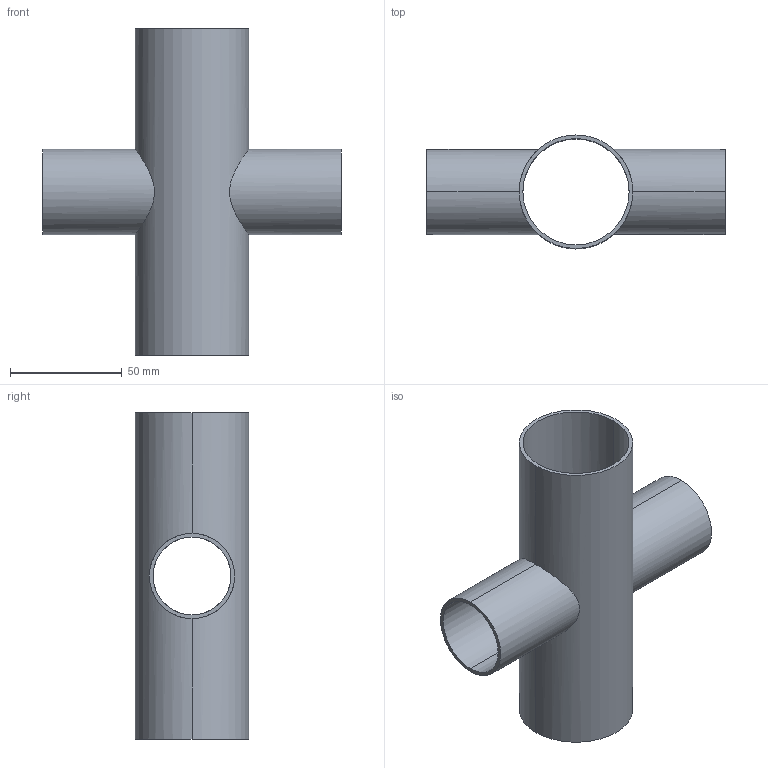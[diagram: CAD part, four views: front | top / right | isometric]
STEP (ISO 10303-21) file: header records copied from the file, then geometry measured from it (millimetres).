
FILE_DESCRIPTION (( 'STEP AP214' ), '1' );
FILE_NAME ('TE9RWWWW6L2.0x1.5-...STEP', '2016-05-22T04:17:09', ( 'eran' ), ( '' ), 'SwSTEP 2.0', 'SolidWorks 2016', '' );
FILE_SCHEMA (( 'AUTOMOTIVE_DESIGN' ));
Length unit declared in the file: millimetre
Products named in the file (1): TE9RWWWW6L2.0x1.5-..
Bounding box: 133.35 x 50.8 x 146.05 mm (x, y, z)
Volume: 50845.9 mm3; surface area: 62466.6 mm2
Topology: 1 solids, 1 shells, 16 faces, 40 edges, 24 vertices
Faces by surface type: cylinder 12, plane 4
Entity records: 950 total; most frequent: CARTESIAN_POINT 525, DIRECTION 82, ORIENTED_EDGE 80, EDGE_CURVE 40, AXIS2_PLACEMENT_3D 33, VERTEX_POINT 24, EDGE_LOOP 20, CIRCLE 16
